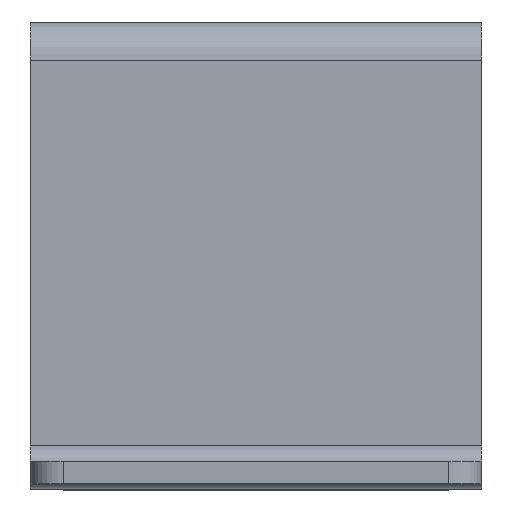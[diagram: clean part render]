
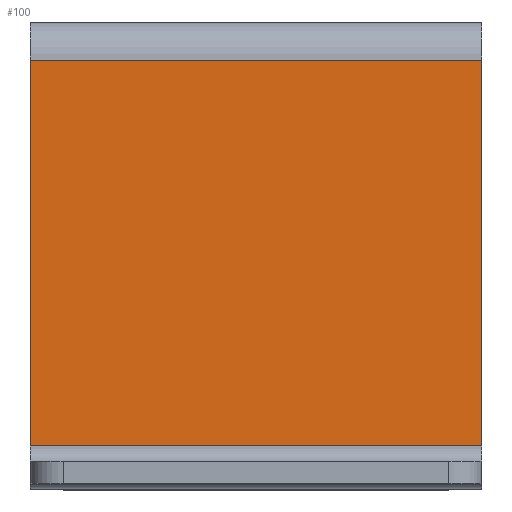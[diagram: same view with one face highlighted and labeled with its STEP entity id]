
A CAD part, top view. The second image highlights one B-rep face of the part: STEP entity #100.
In plain terms, the highlighted planar face has unit normal (0, 0, 1).
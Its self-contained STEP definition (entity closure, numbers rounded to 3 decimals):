
#100=ADVANCED_FACE('',(#1235),#1237,.F.);
#1235=FACE_BOUND('',#1236,.T.);
#1236=EDGE_LOOP('',(#4928,#4929,#4930,#4931));
#1237=PLANE('',#1238);
#1238=AXIS2_PLACEMENT_3D('',#1239,#1240,#1241);
#1239=CARTESIAN_POINT('',(-41.,240.113,243.5));
#1240=DIRECTION('',(0.,0.,-1.));
#1241=DIRECTION('',(1.,0.,0.));
#4928=ORIENTED_EDGE('',*,*,#5223,.T.);
#4929=ORIENTED_EDGE('',*,*,#5239,.F.);
#4930=ORIENTED_EDGE('',*,*,#5240,.T.);
#4931=ORIENTED_EDGE('',*,*,#5241,.F.);
#5223=EDGE_CURVE('',#5493,#5494,#5495,.T.);
#5239=EDGE_CURVE('',#5517,#5494,#5518,.T.);
#5240=EDGE_CURVE('',#5517,#5519,#5520,.T.);
#5241=EDGE_CURVE('',#5493,#5519,#5521,.T.);
#5493=VERTEX_POINT('',#6055);
#5494=VERTEX_POINT('',#6056);
#5495=LINE('',#6057,#6058);
#5517=VERTEX_POINT('',#6113);
#5518=LINE('',#6114,#6115);
#5519=VERTEX_POINT('',#6117);
#5520=LINE('',#6118,#6119);
#5521=LINE('',#6121,#6122);
#6055=CARTESIAN_POINT('',(0.,-3.5,243.5));
#6056=CARTESIAN_POINT('',(-41.,-3.5,243.5));
#6057=CARTESIAN_POINT('',(0.,-3.5,243.5));
#6058=VECTOR('',#6059,1.);
#6059=DIRECTION('',(-1.,0.,0.));
#6113=CARTESIAN_POINT('',(-41.,-38.5,243.5));
#6114=CARTESIAN_POINT('',(-41.,-38.5,243.5));
#6115=VECTOR('',#6116,1.);
#6116=DIRECTION('',(0.,1.,0.));
#6117=CARTESIAN_POINT('',(0.,-38.5,243.5));
#6118=CARTESIAN_POINT('',(-41.,-38.5,243.5));
#6119=VECTOR('',#6120,1.);
#6120=DIRECTION('',(1.,0.,0.));
#6121=CARTESIAN_POINT('',(0.,-3.5,243.5));
#6122=VECTOR('',#6123,1.);
#6123=DIRECTION('',(0.,-1.,0.));
